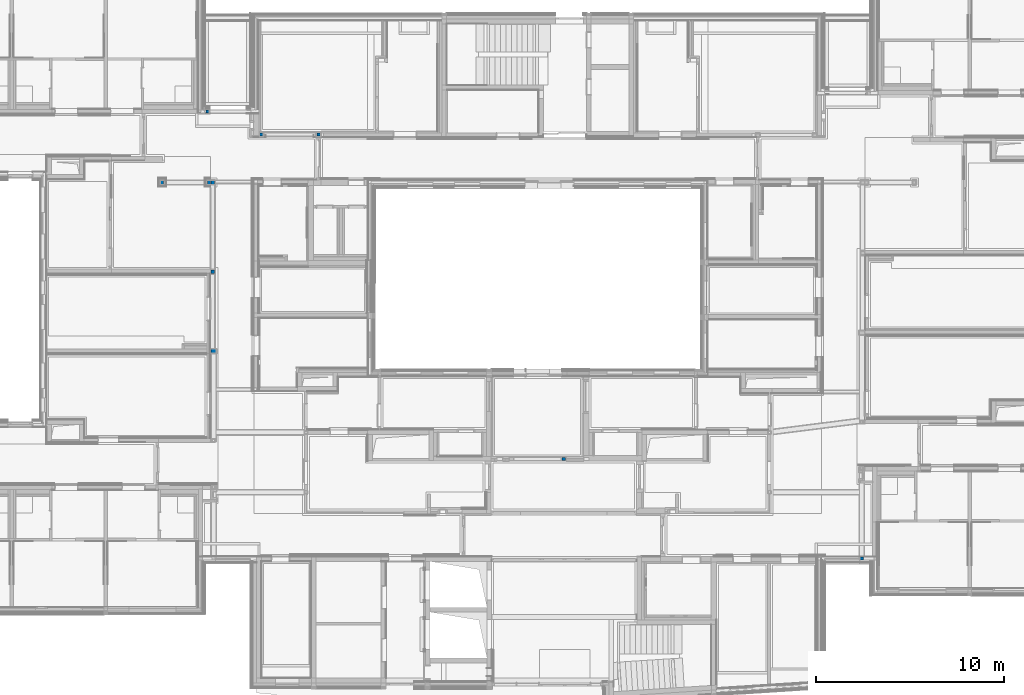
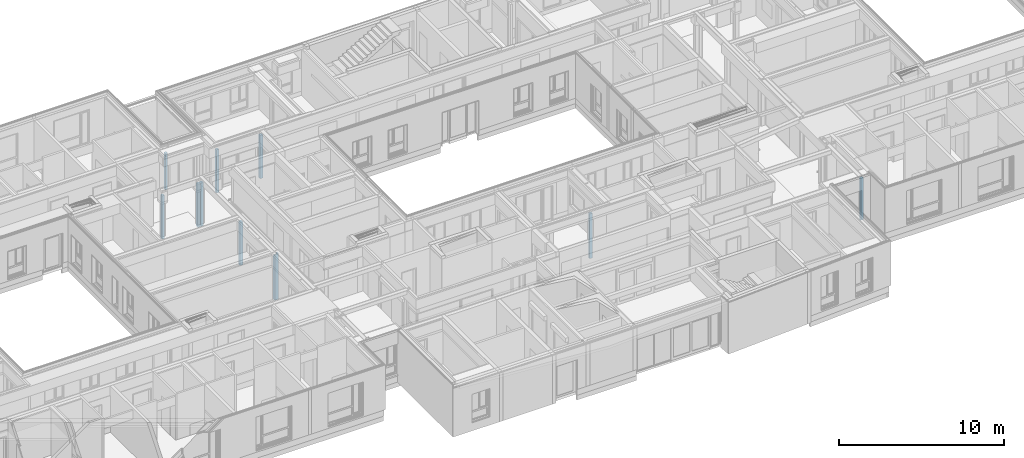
# One storey, part 2 of 207: 10 columns.
"""IFC4 building model written with IfcOpenShell, lengths in metres."""

from ifc_helpers import new_model, entity, si_unit, converted_unit, derived_unit, frame, frame_2d, origin, origin_with_axes, place, context, subcontext, project, spatial, polyline, rectangle, extrude, clip, bounded_halfspace, material, element, save


model = new_model("IFC4")

# Units and contexts
model_context = context("Model", 3, precision=1e-05, world=origin())
body_context = subcontext(model_context, "Body", "Model", "MODEL_VIEW")
ifc_project = project(units=[si_unit("LENGTHUNIT", "METRE"), si_unit("AREAUNIT", "SQUARE_METRE"), si_unit("VOLUMEUNIT", "CUBIC_METRE"), si_unit("MASSUNIT", "GRAM", prefix="KILO"), converted_unit("PLANEANGLEUNIT", "DEGREE", entity("IfcPlaneAngleMeasure", 0.0174532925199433), si_unit("PLANEANGLEUNIT", "RADIAN"), dimensions=[0, 0, 0, 0, 0, 0, 0]), derived_unit("THERMALTRANSMITTANCEUNIT", [(si_unit("POWERUNIT", "WATT"), 1), (si_unit("THERMODYNAMICTEMPERATUREUNIT", "KELVIN"), -1), (si_unit("LENGTHUNIT", "METRE"), -2)]), derived_unit("VOLUMETRICFLOWRATEUNIT", [(si_unit("LENGTHUNIT", "METRE"), 3), (converted_unit("TIMEUNIT", "hour", entity("IfcTimeMeasure", 3600.0), si_unit("TIMEUNIT", "SECOND"), dimensions=[0, 0, 1, 0, 0, 0, 0]), -1), (si_unit("LENGTHUNIT", "METRE"), -1)])], contexts=[model_context])

# Site, building, storey
site_placement = place(None, origin())
site = spatial("IfcSite", under=ifc_project, at=site_placement, Name="Psychiatrie Neubau Wunstorf", CompositionType="ELEMENT")
building_placement = place(site_placement, origin())
building = spatial("IfcBuilding", under=site, at=building_placement, Name="Neubau H2 Stationsgebäude", CompositionType="ELEMENT")
storey_placement = place(building_placement, frame((0.0, 0.0, -0.2)))
storey = spatial("IfcBuildingStorey", under=building, at=storey_placement, Name="H2 Ebene 0", CompositionType="ELEMENT", Elevation=-0.2)

# Columns
ifc_material_1 = material(Name="H")
column_1_placement = place(storey_placement, frame((35.33, 24.1500036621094, 0.5)))
element("IfcColumn", 1, at=column_1_placement, inside=storey, material=ifc_material_1, PredefinedType="COLUMN", context=body_context, shape_type="SweptSolid", body=[
    extrude(rectangle(XDim=0.16, YDim=0.16, at=frame_2d((0.08, 0.08), x_axis=(1.0, 0.0))), origin_with_axes(), (0.0, 0.0, 1.0), 2.7),
])
ifc_material_2 = material(Name="H-ST")
column_2_placement = place(storey_placement, frame((70.1649999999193, 0.340002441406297, 0.5)))
element("IfcColumn", 2, at=column_2_placement, inside=storey, material=ifc_material_2, PredefinedType="COLUMN", context=body_context, shape_type="SweptSolid", body=[
    extrude(rectangle(XDim=0.18, YDim=0.16, at=frame_2d((0.09, 0.08), x_axis=(1.0, 0.0))), origin_with_axes(), (0.0, 0.0, 1.0), 3.1),
])
ifc_material_3 = material(Name="H-ST")
column_3_placement = place(storey_placement, frame((32.9189956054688, 20.355990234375, 0.0)))
element("IfcColumn", 3, at=column_3_placement, inside=storey, material=ifc_material_3, PredefinedType="COLUMN", context=body_context, shape_type="SweptSolid", body=[
    extrude(rectangle(XDim=0.16, YDim=0.2, at=frame_2d((0.08, 0.1), x_axis=(1.0, 0.0))), origin_with_axes(), (0.0, 0.0, 1.0), 3.2),
])
ifc_material_4 = material(Name="H-ST")
column_4_placement = place(storey_placement, frame((41.243, 22.9189990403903, 0.0)))
element("IfcColumn", 4, at=column_4_placement, inside=storey, material=ifc_material_4, PredefinedType="COLUMN", context=body_context, shape_type="SweptSolid", body=[
    extrude(rectangle(XDim=0.18, YDim=0.18, at=frame_2d((0.09, 0.09), x_axis=(1.0, 0.0))), origin_with_axes(), (0.0, 0.0, 1.0), 3.2),
])
ifc_material_5 = material(Name="H-ST")
column_5_placement = place(storey_placement, frame((38.188, 22.9189933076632, 0.0)))
element("IfcColumn", 5, at=column_5_placement, inside=storey, material=ifc_material_5, PredefinedType="COLUMN", context=body_context, shape_type="SweptSolid", body=[
    extrude(rectangle(XDim=0.18, YDim=0.18, at=frame_2d((0.09, 0.09), x_axis=(1.0, 0.0))), origin_with_axes(), (0.0, 0.0, 1.0), 3.2),
])
ifc_material_6 = material(Name="H-ST")
column_6_placement = place(storey_placement, frame((35.4099975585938, 20.3559973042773, 0.0)))
element("IfcColumn", 6, at=column_6_placement, inside=storey, material=ifc_material_6, PredefinedType="COLUMN", context=body_context, shape_type="SweptSolid", body=[
    extrude(rectangle(XDim=0.16, YDim=0.2, at=frame_2d((0.08, 0.1), x_axis=(1.0, 0.0))), origin_with_axes(), (0.0, 0.0, 1.0), 3.2),
])
ifc_material_7 = material(Name="H-ST")
column_7_placement = place(storey_placement, frame((35.6, 20.3559956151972, 0.0)))
element("IfcColumn", 7, at=column_7_placement, inside=storey, material=ifc_material_7, PredefinedType="COLUMN", context=body_context, shape_type="SweptSolid", body=[
    extrude(rectangle(XDim=0.2, YDim=0.2, at=frame_2d((0.1, 0.1), x_axis=(1.0, 0.0))), origin_with_axes(), (0.0, 0.0, 1.0), 3.2),
])
ifc_material_8 = material(Name="H-ST")
column_8_placement = place(storey_placement, frame((35.865, 11.5735575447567, 0.0)))
element("IfcColumn", 8, at=column_8_placement, inside=storey, material=ifc_material_8, PredefinedType="COLUMN", context=body_context, shape_type="Clipping", body=[
    clip(extrude(rectangle(XDim=0.265, YDim=0.2, at=frame_2d((-0.1325, -0.1), x_axis=(-1.0, 0.0))), origin_with_axes(), (0.0, 0.0, 1.0), 3.367), bounded_halfspace(frame((-0.164999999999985, -0.06, 3.2), z_axis=(0.0, 0.0, -1.0), x_axis=(1.0, 0.0, 0.0)), True, origin_with_axes(), polyline([(-0.264999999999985, -0.12), (-0.0649999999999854, -0.12), (-0.0649999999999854, 0.0), (-0.265, 0.0), (-0.264999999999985, -0.12)]))),
])
ifc_material_9 = material(Name="H-ST")
column_9_placement = place(storey_placement, frame((35.6, 15.5964990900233, 0.0)))
element("IfcColumn", 9, at=column_9_placement, inside=storey, material=ifc_material_9, PredefinedType="COLUMN", context=body_context, shape_type="SweptSolid", body=[
    extrude(rectangle(XDim=0.2, YDim=0.2, at=frame_2d((0.1, 0.1), x_axis=(1.0, 0.0))), origin_with_axes(), (0.0, 0.0, 1.0), 3.2),
])
ifc_material_10 = material(Name="H")
column_10_placement = place(storey_placement, frame((54.4884932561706, 5.65349969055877, 0.0)))
element("IfcColumn", 10, at=column_10_placement, inside=storey, material=ifc_material_10, PredefinedType="COLUMN", context=body_context, shape_type="SweptSolid", body=[
    extrude(rectangle(XDim=0.16, YDim=0.2, at=frame_2d((-0.1, 0.08), x_axis=(0.0, 1.0))), origin_with_axes(), (0.0, 0.0, 1.0), 3.3),
])

save(model, "model.ifc")
